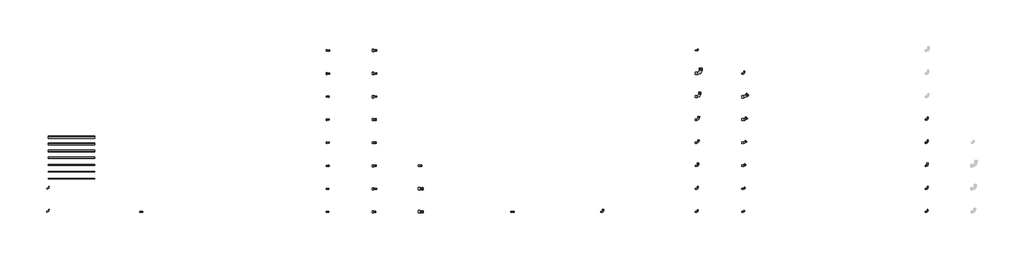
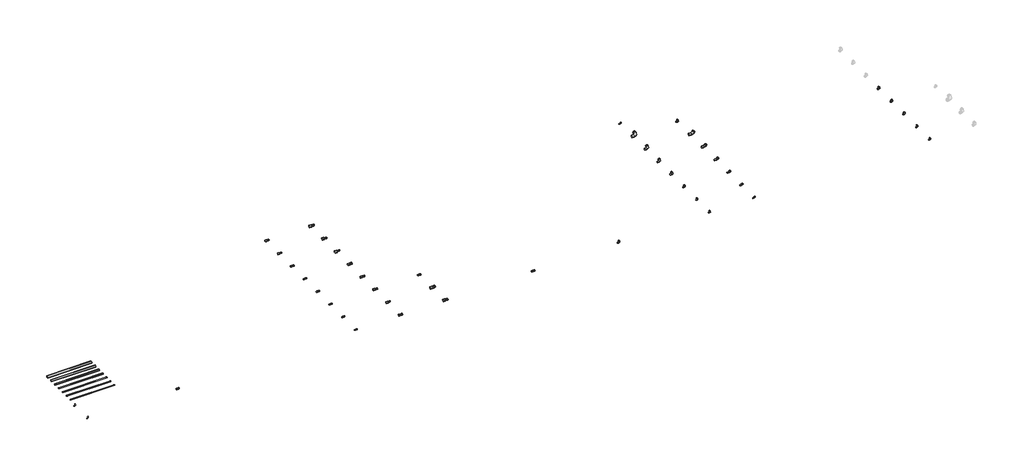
# One storey, part 1 of 2: 44 pipe fittings, 7 pipe segments.
"""IFC4 building model written with IfcOpenShell, lengths in millimetres."""

from ifc_helpers import new_model, si_unit, point, frame, frame_2d, origin, place, context, project, spatial, circle_curve, trimmed, segment, composite_curve, outline, extrude, transform, mapped, element, save
from components import pipe_fitting_f6d37c49, pipe_fitting_55db2e21, pipe_fitting_0edc9f57, pipe_fitting_d2550256, pipe_fitting_bf3eaa2f, pipe_fitting_5858ae5b, pipe_fitting_c7b04b77, pipe_fitting_50f93ee8, pipe_fitting_0a2592f4, pipe_fitting_194db4ae, pipe_fitting_8c9e4054, pipe_fitting_7be5731b, pipe_fitting_3d55b7d6, pipe_fitting_b6892413, pipe_fitting_95f75b3f, pipe_fitting_e990965c, pipe_fitting_4b4f52a9, pipe_fitting_92516d4c, pipe_fitting_943fb51e, pipe_fitting_f680c51e, pipe_fitting_96793c39, pipe_fitting_f90f892e, pipe_fitting_db7363c3, pipe_fitting_15_x_18_3aa9f71b, pipe_fitting_15_x_22_c053387a, pipe_fitting_15_x_28_a449d90f, pipe_fitting_18_x_22_92484bb6, pipe_fitting_18_x_28_b057a370, pipe_fitting_18_x_35_c52bfadc, pipe_fitting_18_x_42_19117a06, pipe_fitting_18_x_54_be309751, pipe_fitting_22_x_35_bd26ee16, pipe_fitting_22_x_42_b39b4fa0, pipe_fitting_22_x_54_ad3cc637, pipe_fitting_28_x_35_9a9bd7d2, pipe_fitting_28_x_42_a3f3c716, pipe_fitting_28_x_54_8448455f, pipe_fitting_35_x_42_b9f03091, pipe_fitting_35_x_54_1e891759, pipe_fitting_42_x_54_48f9dc8b

model = new_model("IFC4")

# Units and contexts
model_context = context("Model", 3, world=origin())
ifc_project = project(units=[si_unit("LENGTHUNIT", "METRE", prefix="MILLI")], contexts=[model_context])

# Site, building, storey
site = spatial("IfcSite", under=ifc_project)
building = spatial("IfcBuilding", under=site)
storey = spatial("IfcBuildingStorey", under=building, Name="Уровень 1", Elevation=0.0)

# Pipe fittings
placement = place(None, origin())
pipe_fitting_shape = pipe_fitting_f6d37c49(model_context)
element("IfcPipeFitting", 1, ObjectType="РЕХАУ_Пресс Гнутая труба из нержавеющей стали : РЕХАУ_Пресс Гнутая труба из нержавеющей стали", at=placement, inside=storey, context=model_context, shape_type="MappedRepresentation", body=[
    mapped(pipe_fitting_shape, transform((0.0, 500.0, 0.0), x_axis=(1.0, 0.0, 0.0), y_axis=(0.0, 1.0, 0.0), z_axis=(0.0, 0.0, 1.0))),
])
pipe_fitting_2_shape = pipe_fitting_55db2e21(model_context)
element("IfcPipeFitting", 2, ObjectType="РЕХАУ_Пресс Вставка переходная (переход) : Вставка переходная", at=placement, inside=storey, context=model_context, shape_type="MappedRepresentation", body=[
    mapped(pipe_fitting_2_shape, transform((10000.0, 0.0, 0.0), x_axis=(1.0, 0.0, 0.0), y_axis=(0.0, 1.0, 0.0), z_axis=(0.0, 0.0, 1.0))),
])
pipe_fitting_3_shape = pipe_fitting_0edc9f57(model_context)
element("IfcPipeFitting", 3, ObjectType="РЕХАУ_Пресс Отвод-вставка : ЗАГРУЗИТЕ ТИПОРАЗМЕРЫ ИЗ КАТАЛОГА ТИПОРАЗМЕРОВ TXT", at=placement, inside=storey, context=model_context, shape_type="MappedRepresentation", body=[
    mapped(pipe_fitting_3_shape, transform((15000.0, 3000.0, 0.0), x_axis=(1.0, 0.0, 0.0), y_axis=(0.0, 1.0, 0.0), z_axis=(0.0, 0.0, 1.0))),
])
pipe_fitting_4_shape = pipe_fitting_d2550256(model_context)
element("IfcPipeFitting", 4, ObjectType="РЕХАУ_Пресс Отвод : Отвод", at=placement, inside=storey, context=model_context, shape_type="MappedRepresentation", body=[
    mapped(pipe_fitting_4_shape, transform((12000.0, 0.0, 0.0), x_axis=(1.0, 0.0, 0.0), y_axis=(0.0, 1.0, 0.0), z_axis=(0.0, 0.0, 1.0))),
])
pipe_fitting_5_shape = pipe_fitting_bf3eaa2f(model_context)
element("IfcPipeFitting", 5, ObjectType="РЕХАУ_Пресс Отвод-вставка : 15 x 90°", at=placement, inside=storey, context=model_context, shape_type="MappedRepresentation", body=[
    mapped(pipe_fitting_5_shape, transform((14000.0, 0.0, 0.0), x_axis=(1.0, 0.0, 0.0), y_axis=(0.0, 1.0, 0.0), z_axis=(0.0, 0.0, 1.0))),
])
pipe_fitting_6_shape = pipe_fitting_5858ae5b(model_context)
element("IfcPipeFitting", 6, ObjectType="РЕХАУ_Пресс Отвод-вставка : 18 x 90°", at=placement, inside=storey, context=model_context, shape_type="MappedRepresentation", body=[
    mapped(pipe_fitting_6_shape, transform((14000.0, 500.0, 0.0), x_axis=(1.0, 0.0, 0.0), y_axis=(0.0, 1.0, 0.0), z_axis=(0.0, 0.0, 1.0))),
])
element("IfcPipeFitting", 7, ObjectType="РЕХАУ_Пресс Отвод-вставка : 22 x 90°", at=placement, inside=storey, context=model_context, shape_type="MappedRepresentation", body=[
    mapped(pipe_fitting_3_shape, transform((14000.0, 1000.0, 0.0), x_axis=(1.0, 0.0, 0.0), y_axis=(0.0, 1.0, 0.0), z_axis=(0.0, 0.0, 1.0))),
])
pipe_fitting_7_shape = pipe_fitting_c7b04b77(model_context)
element("IfcPipeFitting", 8, ObjectType="РЕХАУ_Пресс Отвод-вставка : 28 x 90°", at=placement, inside=storey, context=model_context, shape_type="MappedRepresentation", body=[
    mapped(pipe_fitting_7_shape, transform((14000.0, 1500.0, 0.0), x_axis=(1.0, 0.0, 0.0), y_axis=(0.0, 1.0, 0.0), z_axis=(0.0, 0.0, 1.0))),
])
pipe_fitting_8_shape = pipe_fitting_50f93ee8(model_context)
element("IfcPipeFitting", 9, ObjectType="РЕХАУ_Пресс Отвод-вставка : 35 x 90°", at=placement, inside=storey, context=model_context, shape_type="MappedRepresentation", body=[
    mapped(pipe_fitting_8_shape, transform((14000.0, 2000.0, 0.0), x_axis=(1.0, 0.0, 0.0), y_axis=(0.0, 1.0, 0.0), z_axis=(0.0, 0.0, 1.0))),
])
pipe_fitting_9_shape = pipe_fitting_0a2592f4(model_context)
element("IfcPipeFitting", 10, ObjectType="РЕХАУ_Пресс Отвод-вставка : 42 x 90°", at=placement, inside=storey, context=model_context, shape_type="MappedRepresentation", body=[
    mapped(pipe_fitting_9_shape, transform((14000.0, 2500.0, 0.0), x_axis=(1.0, 0.0, 0.0), y_axis=(0.0, 1.0, 0.0), z_axis=(0.0, 0.0, 1.0))),
])
pipe_fitting_10_shape = pipe_fitting_194db4ae(model_context)
element("IfcPipeFitting", 11, ObjectType="РЕХАУ_Пресс Отвод-вставка : 54 x 90°", at=placement, inside=storey, context=model_context, shape_type="MappedRepresentation", body=[
    mapped(pipe_fitting_10_shape, transform((14000.0, 3000.0, 0.0), x_axis=(1.0, 0.0, 0.0), y_axis=(0.0, 1.0, 0.0), z_axis=(0.0, 0.0, 1.0))),
])
pipe_fitting_11_shape = pipe_fitting_8c9e4054(model_context)
element("IfcPipeFitting", 12, ObjectType="РЕХАУ_Пресс Отвод-вставка : 15 x 45°", at=placement, inside=storey, context=model_context, shape_type="MappedRepresentation", body=[
    mapped(pipe_fitting_11_shape, transform((14000.0, 3500.0, 0.0), x_axis=(1.0, 0.0, 0.0), y_axis=(0.0, 1.0, 0.0), z_axis=(0.0, 0.0, 1.0))),
])
pipe_fitting_12_shape = pipe_fitting_7be5731b(model_context)
element("IfcPipeFitting", 13, ObjectType="РЕХАУ_Пресс Отвод-вставка : 18 x 45°", at=placement, inside=storey, context=model_context, shape_type="MappedRepresentation", body=[
    mapped(pipe_fitting_12_shape, transform((15000.0, 0.0, 0.0), x_axis=(1.0, 0.0, 0.0), y_axis=(0.0, 1.0, 0.0), z_axis=(0.0, 0.0, 1.0))),
])
pipe_fitting_13_shape = pipe_fitting_3d55b7d6(model_context)
element("IfcPipeFitting", 14, ObjectType="РЕХАУ_Пресс Отвод-вставка : 22 x 45°", at=placement, inside=storey, context=model_context, shape_type="MappedRepresentation", body=[
    mapped(pipe_fitting_13_shape, transform((15000.0, 500.0, 0.0), x_axis=(1.0, 0.0, 0.0), y_axis=(0.0, 1.0, 0.0), z_axis=(0.0, 0.0, 1.0))),
])
pipe_fitting_14_shape = pipe_fitting_b6892413(model_context)
element("IfcPipeFitting", 15, ObjectType="РЕХАУ_Пресс Отвод-вставка : 28 x 45°", at=placement, inside=storey, context=model_context, shape_type="MappedRepresentation", body=[
    mapped(pipe_fitting_14_shape, transform((15000.0, 1000.0, 0.0), x_axis=(1.0, 0.0, 0.0), y_axis=(0.0, 1.0, 0.0), z_axis=(0.0, 0.0, 1.0))),
])
pipe_fitting_15_shape = pipe_fitting_95f75b3f(model_context)
element("IfcPipeFitting", 16, ObjectType="РЕХАУ_Пресс Отвод-вставка : 35 x 45°", at=placement, inside=storey, context=model_context, shape_type="MappedRepresentation", body=[
    mapped(pipe_fitting_15_shape, transform((15000.0, 1500.0, 0.0), x_axis=(1.0, 0.0, 0.0), y_axis=(0.0, 1.0, 0.0), z_axis=(0.0, 0.0, 1.0))),
])
pipe_fitting_16_shape = pipe_fitting_e990965c(model_context)
element("IfcPipeFitting", 17, ObjectType="РЕХАУ_Пресс Отвод-вставка : 42 x 45°", at=placement, inside=storey, context=model_context, shape_type="MappedRepresentation", body=[
    mapped(pipe_fitting_16_shape, transform((15000.0, 2000.0, 0.0), x_axis=(1.0, 0.0, 0.0), y_axis=(0.0, 1.0, 0.0), z_axis=(0.0, 0.0, 1.0))),
])
pipe_fitting_17_shape = pipe_fitting_4b4f52a9(model_context)
element("IfcPipeFitting", 18, ObjectType="РЕХАУ_Пресс Отвод-вставка : 54 x 45°", at=placement, inside=storey, context=model_context, shape_type="MappedRepresentation", body=[
    mapped(pipe_fitting_17_shape, transform((15000.0, 2500.0, 0.0), x_axis=(1.0, 0.0, 0.0), y_axis=(0.0, 1.0, 0.0), z_axis=(0.0, 0.0, 1.0))),
])
pipe_fitting_18_shape = pipe_fitting_92516d4c(model_context)
element("IfcPipeFitting", 19, ObjectType="РЕХАУ_Пресс Отвод НР : 15 x R 1/2\"", at=placement, inside=storey, context=model_context, shape_type="MappedRepresentation", body=[
    mapped(pipe_fitting_18_shape, transform((19000.0, 0.0, 0.0), x_axis=(1.0, 0.0, 0.0), y_axis=(0.0, 1.0, 0.0), z_axis=(0.0, 0.0, 1.0))),
])
pipe_fitting_19_shape = pipe_fitting_943fb51e(model_context)
element("IfcPipeFitting", 20, ObjectType="РЕХАУ_Пресс Отвод НР : 18 x R 1/2\"", at=placement, inside=storey, context=model_context, shape_type="MappedRepresentation", body=[
    mapped(pipe_fitting_19_shape, transform((19000.0, 500.0, 0.0), x_axis=(1.0, 0.0, 0.0), y_axis=(0.0, 1.0, 0.0), z_axis=(0.0, 0.0, 1.0))),
])
pipe_fitting_20_shape = pipe_fitting_f680c51e(model_context)
element("IfcPipeFitting", 21, ObjectType="РЕХАУ_Пресс Отвод НР : 18 x R 3/4\"", at=placement, inside=storey, context=model_context, shape_type="MappedRepresentation", body=[
    mapped(pipe_fitting_20_shape, transform((19000.0, 1000.0, 0.0), x_axis=(1.0, 0.0, 0.0), y_axis=(0.0, 1.0, 0.0), z_axis=(0.0, 0.0, 1.0))),
])
pipe_fitting_21_shape = pipe_fitting_96793c39(model_context)
element("IfcPipeFitting", 22, ObjectType="РЕХАУ_Пресс Отвод НР : 22 x R 1/2\"", at=placement, inside=storey, context=model_context, shape_type="MappedRepresentation", body=[
    mapped(pipe_fitting_21_shape, transform((19000.0, 1500.0, 0.0), x_axis=(1.0, 0.0, 0.0), y_axis=(0.0, 1.0, 0.0), z_axis=(0.0, 0.0, 1.0))),
])
pipe_fitting_22_shape = pipe_fitting_f90f892e(model_context)
element("IfcPipeFitting", 23, ObjectType="РЕХАУ_Пресс Отвод НР : 22 x R 3/4\"", at=placement, inside=storey, context=model_context, shape_type="MappedRepresentation", body=[
    mapped(pipe_fitting_22_shape, transform((19000.0, 2000.0, 0.0), x_axis=(1.0, 0.0, 0.0), y_axis=(0.0, 1.0, 0.0), z_axis=(0.0, 0.0, 1.0))),
])
element("IfcPipeFitting", 24, ObjectType="РЕХАУ_Пресс Гнутая труба из нержавеющей стали : РЕХАУ_Гнутая труба из нержавеющей стали", at=placement, inside=storey, context=model_context, shape_type="MappedRepresentation", body=[
    mapped(pipe_fitting_shape, transform((0.0, 0.0, 0.0), x_axis=(1.0, 0.0, 0.0), y_axis=(0.0, 1.0, 0.0), z_axis=(0.0, 0.0, 1.0))),
])
element("IfcPipeFitting", 25, ObjectType="РЕХАУ_Пресс Вставка переходная : ЗАГРУЗИТЕ ТИПОРАЗМЕРЫ ИЗ КАТАЛОГА ТИПОРАЗМЕРОВ TXT", at=placement, inside=storey, context=model_context, shape_type="MappedRepresentation", body=[
    mapped(pipe_fitting_2_shape, transform((8000.0, 1000.0, 0.0), x_axis=(1.0, 0.0, 0.0), y_axis=(0.0, 1.0, 0.0), z_axis=(0.0, 0.0, 1.0))),
])
pipe_fitting_23_shape = pipe_fitting_db7363c3(model_context)
element("IfcPipeFitting", 26, ObjectType="РЕХАУ_Пресс Муфта прямая : Муфта прямая", at=placement, inside=storey, context=model_context, shape_type="MappedRepresentation", body=[
    mapped(pipe_fitting_23_shape, transform((2000.0, 0.0, 0.0), x_axis=(1.0, 0.0, 0.0), y_axis=(0.0, 1.0, 0.0), z_axis=(0.0, 0.0, 1.0))),
])
pipe_fitting_15_x_18_shape = pipe_fitting_15_x_18_3aa9f71b(model_context)
element("IfcPipeFitting", 27, ObjectType="РЕХАУ_Пресс Вставка переходная : 15 x 18", at=placement, inside=storey, context=model_context, shape_type="MappedRepresentation", body=[
    mapped(pipe_fitting_15_x_18_shape, transform((6000.0, 0.0, 0.0), x_axis=(1.0, 0.0, 0.0), y_axis=(0.0, 1.0, 0.0), z_axis=(0.0, 0.0, 1.0))),
])
pipe_fitting_15_x_22_shape = pipe_fitting_15_x_22_c053387a(model_context)
element("IfcPipeFitting", 28, ObjectType="РЕХАУ_Пресс Вставка переходная : 15 x 22", at=placement, inside=storey, context=model_context, shape_type="MappedRepresentation", body=[
    mapped(pipe_fitting_15_x_22_shape, transform((6000.0, 500.0, 0.0), x_axis=(1.0, 0.0, 0.0), y_axis=(0.0, 1.0, 0.0), z_axis=(0.0, 0.0, 1.0))),
])
pipe_fitting_15_x_28_shape = pipe_fitting_15_x_28_a449d90f(model_context)
element("IfcPipeFitting", 29, ObjectType="РЕХАУ_Пресс Вставка переходная : 15 x 28", at=placement, inside=storey, context=model_context, shape_type="MappedRepresentation", body=[
    mapped(pipe_fitting_15_x_28_shape, transform((6000.0, 1500.0, 0.0), x_axis=(1.0, 0.0, 0.0), y_axis=(0.0, 1.0, 0.0), z_axis=(0.0, 0.0, 1.0))),
])
pipe_fitting_18_x_22_shape = pipe_fitting_18_x_22_92484bb6(model_context)
element("IfcPipeFitting", 30, ObjectType="РЕХАУ_Пресс Вставка переходная : 18 x 22", at=placement, inside=storey, context=model_context, shape_type="MappedRepresentation", body=[
    mapped(pipe_fitting_18_x_22_shape, transform((6000.0, 1000.0, 0.0), x_axis=(1.0, 0.0, 0.0), y_axis=(0.0, 1.0, 0.0), z_axis=(0.0, 0.0, 1.0))),
])
pipe_fitting_18_x_28_shape = pipe_fitting_18_x_28_b057a370(model_context)
element("IfcPipeFitting", 31, ObjectType="РЕХАУ_Пресс Вставка переходная : 18 x 28", at=placement, inside=storey, context=model_context, shape_type="MappedRepresentation", body=[
    mapped(pipe_fitting_18_x_28_shape, transform((6000.0, 2000.0, 0.0), x_axis=(1.0, 0.0, 0.0), y_axis=(0.0, 1.0, 0.0), z_axis=(0.0, 0.0, 1.0))),
])
pipe_fitting_18_x_35_shape = pipe_fitting_18_x_35_c52bfadc(model_context)
element("IfcPipeFitting", 32, ObjectType="РЕХАУ_Пресс Вставка переходная : 18 x 35", at=placement, inside=storey, context=model_context, shape_type="MappedRepresentation", body=[
    mapped(pipe_fitting_18_x_35_shape, transform((6000.0, 3000.0, 0.0), x_axis=(1.0, 0.0, 0.0), y_axis=(0.0, 1.0, 0.0), z_axis=(0.0, 0.0, 1.0))),
])
pipe_fitting_18_x_42_shape = pipe_fitting_18_x_42_19117a06(model_context)
element("IfcPipeFitting", 33, ObjectType="РЕХАУ_Пресс Вставка переходная : 18 x 42", at=placement, inside=storey, context=model_context, shape_type="MappedRepresentation", body=[
    mapped(pipe_fitting_18_x_42_shape, transform((7000.0, 500.0, 0.0), x_axis=(1.0, 0.0, 0.0), y_axis=(0.0, 1.0, 0.0), z_axis=(0.0, 0.0, 1.0))),
])
pipe_fitting_18_x_54_shape = pipe_fitting_18_x_54_be309751(model_context)
element("IfcPipeFitting", 34, ObjectType="РЕХАУ_Пресс Вставка переходная : 18 x 54", at=placement, inside=storey, context=model_context, shape_type="MappedRepresentation", body=[
    mapped(pipe_fitting_18_x_54_shape, transform((7000.0, 2500.0, 0.0), x_axis=(1.0, 0.0, 0.0), y_axis=(0.0, 1.0, 0.0), z_axis=(0.0, 0.0, 1.0))),
])
element("IfcPipeFitting", 35, ObjectType="РЕХАУ_Пресс Вставка переходная : 22 x 28", at=placement, inside=storey, context=model_context, shape_type="MappedRepresentation", body=[
    mapped(pipe_fitting_2_shape, transform((6000.0, 2500.0, 0.0), x_axis=(1.0, 0.0, 0.0), y_axis=(0.0, 1.0, 0.0), z_axis=(0.0, 0.0, 1.0))),
])
pipe_fitting_22_x_35_shape = pipe_fitting_22_x_35_bd26ee16(model_context)
element("IfcPipeFitting", 36, ObjectType="РЕХАУ_Пресс Вставка переходная : 22 x 35", at=placement, inside=storey, context=model_context, shape_type="MappedRepresentation", body=[
    mapped(pipe_fitting_22_x_35_shape, transform((6000.0, 3500.0, 0.0), x_axis=(1.0, 0.0, 0.0), y_axis=(0.0, 1.0, 0.0), z_axis=(0.0, 0.0, 1.0))),
])
pipe_fitting_22_x_42_shape = pipe_fitting_22_x_42_b39b4fa0(model_context)
element("IfcPipeFitting", 37, ObjectType="РЕХАУ_Пресс Вставка переходная : 22 x 42", at=placement, inside=storey, context=model_context, shape_type="MappedRepresentation", body=[
    mapped(pipe_fitting_22_x_42_shape, transform((7000.0, 1000.0, 0.0), x_axis=(1.0, 0.0, 0.0), y_axis=(0.0, 1.0, 0.0), z_axis=(0.0, 0.0, 1.0))),
])
pipe_fitting_22_x_54_shape = pipe_fitting_22_x_54_ad3cc637(model_context)
element("IfcPipeFitting", 38, ObjectType="РЕХАУ_Пресс Вставка переходная : 22 x 54", at=placement, inside=storey, context=model_context, shape_type="MappedRepresentation", body=[
    mapped(pipe_fitting_22_x_54_shape, transform((7000.0, 3000.0, 0.0), x_axis=(1.0, 0.0, 0.0), y_axis=(0.0, 1.0, 0.0), z_axis=(0.0, 0.0, 1.0))),
])
pipe_fitting_28_x_35_shape = pipe_fitting_28_x_35_9a9bd7d2(model_context)
element("IfcPipeFitting", 39, ObjectType="РЕХАУ_Пресс Вставка переходная : 28 x 35", at=placement, inside=storey, context=model_context, shape_type="MappedRepresentation", body=[
    mapped(pipe_fitting_28_x_35_shape, transform((7000.0, 0.0, 0.0), x_axis=(1.0, 0.0, 0.0), y_axis=(0.0, 1.0, 0.0), z_axis=(0.0, 0.0, 1.0))),
])
pipe_fitting_28_x_42_shape = pipe_fitting_28_x_42_a3f3c716(model_context)
element("IfcPipeFitting", 40, ObjectType="РЕХАУ_Пресс Вставка переходная : 28 x 42", at=placement, inside=storey, context=model_context, shape_type="MappedRepresentation", body=[
    mapped(pipe_fitting_28_x_42_shape, transform((7000.0, 1500.0, 0.0), x_axis=(1.0, 0.0, 0.0), y_axis=(0.0, 1.0, 0.0), z_axis=(0.0, 0.0, 1.0))),
])
pipe_fitting_28_x_54_shape = pipe_fitting_28_x_54_8448455f(model_context)
element("IfcPipeFitting", 41, ObjectType="РЕХАУ_Пресс Вставка переходная : 28 x 54", at=placement, inside=storey, context=model_context, shape_type="MappedRepresentation", body=[
    mapped(pipe_fitting_28_x_54_shape, transform((7000.0, 3500.0, 0.0), x_axis=(1.0, 0.0, 0.0), y_axis=(0.0, 1.0, 0.0), z_axis=(0.0, 0.0, 1.0))),
])
pipe_fitting_35_x_42_shape = pipe_fitting_35_x_42_b9f03091(model_context)
element("IfcPipeFitting", 42, ObjectType="РЕХАУ_Пресс Вставка переходная : 35 x 42", at=placement, inside=storey, context=model_context, shape_type="MappedRepresentation", body=[
    mapped(pipe_fitting_35_x_42_shape, transform((7000.0, 2000.0, 0.0), x_axis=(1.0, 0.0, 0.0), y_axis=(0.0, 1.0, 0.0), z_axis=(0.0, 0.0, 1.0))),
])
pipe_fitting_35_x_54_shape = pipe_fitting_35_x_54_1e891759(model_context)
element("IfcPipeFitting", 43, ObjectType="РЕХАУ_Пресс Вставка переходная : 35 x 54", at=placement, inside=storey, context=model_context, shape_type="MappedRepresentation", body=[
    mapped(pipe_fitting_35_x_54_shape, transform((8000.0, 0.0, 0.0), x_axis=(1.0, 0.0, 0.0), y_axis=(0.0, 1.0, 0.0), z_axis=(0.0, 0.0, 1.0))),
])
pipe_fitting_42_x_54_shape = pipe_fitting_42_x_54_48f9dc8b(model_context)
element("IfcPipeFitting", 44, ObjectType="РЕХАУ_Пресс Вставка переходная : 42 x 54", at=placement, inside=storey, context=model_context, shape_type="MappedRepresentation", body=[
    mapped(pipe_fitting_42_x_54_shape, transform((8000.0, 500.0, 0.0), x_axis=(1.0, 0.0, 0.0), y_axis=(0.0, 1.0, 0.0), z_axis=(0.0, 0.0, 1.0))),
])

# Pipe segments
element("IfcPipeSegment", 45, ObjectType="РЕХАУ_Труба из нержавеющей стали", at=placement, inside=storey, context=model_context, shape_type="SweptSolid", body=[
    extrude(outline(composite_curve([segment(trimmed(circle_curve(frame_2d((1621.4801614, 0.0)), 27.0), [point((1594.4801614, 0.0))], [point((1621.4801614, 27.0))], False, "CARTESIAN"), True, "CONTINUOUS"), segment(trimmed(circle_curve(frame_2d((1621.4801614, 0.0)), 27.0), [point((1621.4801614, 27.0))], [point((1648.4801614, 0.0))], False, "CARTESIAN"), True, "CONTINUOUS"), segment(trimmed(circle_curve(frame_2d((1621.4801614, 0.0)), 27.0), [point((1648.4801614, 0.0))], [point((1621.4801614, -27.0))], False, "CARTESIAN"), True, "CONTINUOUS"), segment(trimmed(circle_curve(frame_2d((1621.4801614, 0.0)), 27.0), [point((1621.4801614, -27.0))], [point((1594.4801614, 0.0))], False, "CARTESIAN"), True, "CONTINUOUS")], self_intersect=False)), frame((-10.5554013, 0.0, 0.0), z_axis=(1.0, 0.0, 0.0), x_axis=(0.0, 1.0, 0.0)), (0.0, 0.0, 1.0), 1000.0),
])
element("IfcPipeSegment", 46, ObjectType="РЕХАУ_Труба из нержавеющей стали", at=placement, inside=storey, context=model_context, shape_type="SweptSolid", body=[
    extrude(outline(composite_curve([segment(trimmed(circle_curve(frame_2d((1471.4801614, 0.0)), 21.0), [point((1450.4801614, 0.0))], [point((1471.4801614, 21.0))], False, "CARTESIAN"), True, "CONTINUOUS"), segment(trimmed(circle_curve(frame_2d((1471.4801614, 0.0)), 21.0), [point((1471.4801614, 21.0))], [point((1492.4801614, 0.0))], False, "CARTESIAN"), True, "CONTINUOUS"), segment(trimmed(circle_curve(frame_2d((1471.4801614, 0.0)), 21.0), [point((1492.4801614, 0.0))], [point((1471.4801614, -21.0))], False, "CARTESIAN"), True, "CONTINUOUS"), segment(trimmed(circle_curve(frame_2d((1471.4801614, 0.0)), 21.0), [point((1471.4801614, -21.0))], [point((1450.4801614, 0.0))], False, "CARTESIAN"), True, "CONTINUOUS")], self_intersect=False)), frame((-10.5554013, 0.0, 0.0), z_axis=(1.0, 0.0, 0.0), x_axis=(0.0, 1.0, 0.0)), (0.0, 0.0, 1.0), 1000.0),
])
element("IfcPipeSegment", 47, ObjectType="РЕХАУ_Труба из нержавеющей стали", at=placement, inside=storey, context=model_context, shape_type="SweptSolid", body=[
    extrude(outline(composite_curve([segment(trimmed(circle_curve(frame_2d((1321.4801614, 0.0)), 17.5), [point((1303.9801614, 0.0))], [point((1321.4801614, 17.5))], False, "CARTESIAN"), True, "CONTINUOUS"), segment(trimmed(circle_curve(frame_2d((1321.4801614, 0.0)), 17.5), [point((1321.4801614, 17.5))], [point((1338.9801614, 0.0))], False, "CARTESIAN"), True, "CONTINUOUS"), segment(trimmed(circle_curve(frame_2d((1321.4801614, 0.0)), 17.5), [point((1338.9801614, 0.0))], [point((1321.4801614, -17.5))], False, "CARTESIAN"), True, "CONTINUOUS"), segment(trimmed(circle_curve(frame_2d((1321.4801614, 0.0)), 17.5), [point((1321.4801614, -17.5))], [point((1303.9801614, 0.0))], False, "CARTESIAN"), True, "CONTINUOUS")], self_intersect=False)), frame((-10.5554013, 0.0, 0.0), z_axis=(1.0, 0.0, 0.0), x_axis=(0.0, 1.0, 0.0)), (0.0, 0.0, 1.0), 1000.0),
])
element("IfcPipeSegment", 48, ObjectType="РЕХАУ_Труба из нержавеющей стали", at=placement, inside=storey, context=model_context, shape_type="SweptSolid", body=[
    extrude(outline(composite_curve([segment(trimmed(circle_curve(frame_2d((1171.4801614, 0.0)), 14.0), [point((1157.4801614, 0.0))], [point((1171.4801614, 14.0))], False, "CARTESIAN"), True, "CONTINUOUS"), segment(trimmed(circle_curve(frame_2d((1171.4801614, 0.0)), 14.0), [point((1171.4801614, 14.0))], [point((1185.4801614, 0.0))], False, "CARTESIAN"), True, "CONTINUOUS"), segment(trimmed(circle_curve(frame_2d((1171.4801614, 0.0)), 14.0), [point((1185.4801614, 0.0))], [point((1171.4801614, -14.0))], False, "CARTESIAN"), True, "CONTINUOUS"), segment(trimmed(circle_curve(frame_2d((1171.4801614, 0.0)), 14.0), [point((1171.4801614, -14.0))], [point((1157.4801614, 0.0))], False, "CARTESIAN"), True, "CONTINUOUS")], self_intersect=False)), frame((-10.5554013, 0.0, 0.0), z_axis=(1.0, 0.0, 0.0), x_axis=(0.0, 1.0, 0.0)), (0.0, 0.0, 1.0), 1000.0),
])
element("IfcPipeSegment", 49, ObjectType="РЕХАУ_Труба из нержавеющей стали", at=placement, inside=storey, context=model_context, shape_type="SweptSolid", body=[
    extrude(outline(composite_curve([segment(trimmed(circle_curve(frame_2d((1021.4801614, 0.0)), 11.0), [point((1010.4801614, 0.0))], [point((1021.4801614, 11.0))], False, "CARTESIAN"), True, "CONTINUOUS"), segment(trimmed(circle_curve(frame_2d((1021.4801614, 0.0)), 11.0), [point((1021.4801614, 11.0))], [point((1032.4801614, 0.0))], False, "CARTESIAN"), True, "CONTINUOUS"), segment(trimmed(circle_curve(frame_2d((1021.4801614, 0.0)), 11.0), [point((1032.4801614, 0.0))], [point((1021.4801614, -11.0))], False, "CARTESIAN"), True, "CONTINUOUS"), segment(trimmed(circle_curve(frame_2d((1021.4801614, 0.0)), 11.0), [point((1021.4801614, -11.0))], [point((1010.4801614, 0.0))], False, "CARTESIAN"), True, "CONTINUOUS")], self_intersect=False)), frame((-10.5554013, 0.0, 0.0), z_axis=(1.0, 0.0, 0.0), x_axis=(0.0, 1.0, 0.0)), (0.0, 0.0, 1.0), 1000.0),
])
element("IfcPipeSegment", 50, ObjectType="РЕХАУ_Труба из нержавеющей стали", at=placement, inside=storey, context=model_context, shape_type="SweptSolid", body=[
    extrude(outline(composite_curve([segment(trimmed(circle_curve(frame_2d((871.4801614, 0.0)), 9.0), [point((862.4801614, 0.0))], [point((871.4801614, 9.0))], False, "CARTESIAN"), True, "CONTINUOUS"), segment(trimmed(circle_curve(frame_2d((871.4801614, 0.0)), 9.0), [point((871.4801614, 9.0))], [point((880.4801614, 0.0))], False, "CARTESIAN"), True, "CONTINUOUS"), segment(trimmed(circle_curve(frame_2d((871.4801614, 0.0)), 9.0), [point((880.4801614, 0.0))], [point((871.4801614, -9.0))], False, "CARTESIAN"), True, "CONTINUOUS"), segment(trimmed(circle_curve(frame_2d((871.4801614, 0.0)), 9.0), [point((871.4801614, -9.0))], [point((862.4801614, 0.0))], False, "CARTESIAN"), True, "CONTINUOUS")], self_intersect=False)), frame((-10.5554013, 0.0, 0.0), z_axis=(1.0, 0.0, 0.0), x_axis=(0.0, 1.0, 0.0)), (0.0, 0.0, 1.0), 1000.0),
])
element("IfcPipeSegment", 51, ObjectType="РЕХАУ_Труба из нержавеющей стали", at=placement, inside=storey, context=model_context, shape_type="SweptSolid", body=[
    extrude(outline(composite_curve([segment(trimmed(circle_curve(frame_2d((721.4801614, 0.0)), 7.5), [point((713.9801614, 0.0))], [point((721.4801614, 7.5))], False, "CARTESIAN"), True, "CONTINUOUS"), segment(trimmed(circle_curve(frame_2d((721.4801614, 0.0)), 7.5), [point((721.4801614, 7.5))], [point((728.9801614, 0.0))], False, "CARTESIAN"), True, "CONTINUOUS"), segment(trimmed(circle_curve(frame_2d((721.4801614, 0.0)), 7.5), [point((728.9801614, 0.0))], [point((721.4801614, -7.5))], False, "CARTESIAN"), True, "CONTINUOUS"), segment(trimmed(circle_curve(frame_2d((721.4801614, 0.0)), 7.5), [point((721.4801614, -7.5))], [point((713.9801614, 0.0))], False, "CARTESIAN"), True, "CONTINUOUS")], self_intersect=False)), frame((-10.5554013, 0.0, 0.0), z_axis=(1.0, 0.0, 0.0), x_axis=(0.0, 1.0, 0.0)), (0.0, 0.0, 1.0), 1000.0),
])

save(model, "model.ifc")
